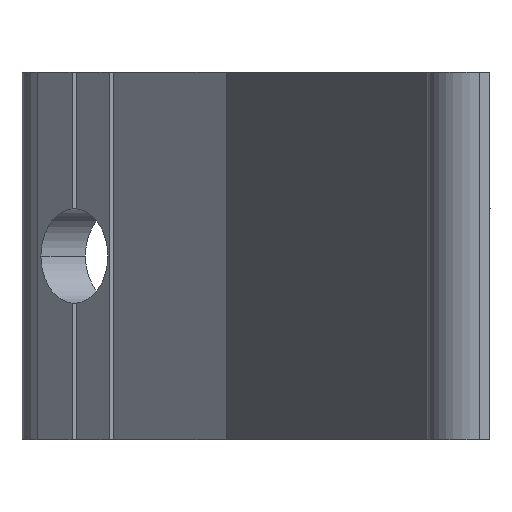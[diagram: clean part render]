
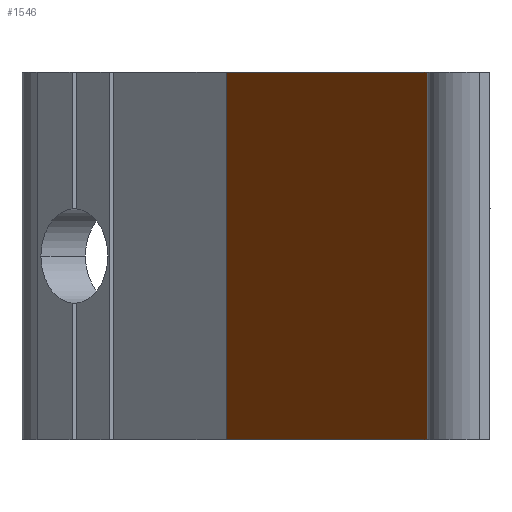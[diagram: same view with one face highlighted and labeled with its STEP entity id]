
A CAD part, left-side view. The second image highlights one B-rep face of the part: STEP entity #1546.
In plain terms, the highlighted planar face has unit normal (-0.383, 0.924, 0).
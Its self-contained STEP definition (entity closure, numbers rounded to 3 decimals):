
#22 = VECTOR ( 'NONE', #309, 1000. ) ;
#32 = DIRECTION ( 'NONE',  ( 0.924, 0.383, 0. ) ) ;
#59 = PLANE ( 'NONE',  #1454 ) ;
#83 = CARTESIAN_POINT ( 'NONE',  ( -6.448, 15.567, 17.5 ) ) ;
#103 = VERTEX_POINT ( 'NONE', #1101 ) ;
#109 = EDGE_CURVE ( 'NONE', #103, #1564, #1625, .T. ) ;
#123 = DIRECTION ( 'NONE',  ( -0.924, -0.383, 0. ) ) ;
#195 = DIRECTION ( 'NONE',  ( 0.383, -0.924, 0. ) ) ;
#197 = LINE ( 'NONE', #791, #947 ) ;
#207 = CARTESIAN_POINT ( 'NONE',  ( 16.649, 25.135, -17.5 ) ) ;
#265 = ORIENTED_EDGE ( 'NONE', *, *, #1080, .F. ) ;
#309 = DIRECTION ( 'NONE',  ( 0., 0., -1. ) ) ;
#390 = CARTESIAN_POINT ( 'NONE',  ( -6.448, 15.567, -17.5 ) ) ;
#391 = CARTESIAN_POINT ( 'NONE',  ( -29.546, 6., -17.5 ) ) ;
#561 = ORIENTED_EDGE ( 'NONE', *, *, #1038, .T. ) ;
#566 = LINE ( 'NONE', #1770, #1766 ) ;
#575 = ORIENTED_EDGE ( 'NONE', *, *, #1332, .T. ) ;
#790 = EDGE_LOOP ( 'NONE', ( #561, #1732, #265, #575 ) ) ;
#791 = CARTESIAN_POINT ( 'NONE',  ( 16.649, 25.135, 17.5 ) ) ;
#824 = VERTEX_POINT ( 'NONE', #207 ) ;
#838 = CARTESIAN_POINT ( 'NONE',  ( -29.546, 6., 17.5 ) ) ;
#844 = VERTEX_POINT ( 'NONE', #961 ) ;
#947 = VECTOR ( 'NONE', #957, 1000. ) ;
#957 = DIRECTION ( 'NONE',  ( 0., 0., -1. ) ) ;
#961 = CARTESIAN_POINT ( 'NONE',  ( 16.649, 25.135, 17.5 ) ) ;
#963 = DIRECTION ( 'NONE',  ( -0.924, -0.383, 0. ) ) ;
#1023 = VECTOR ( 'NONE', #123, 1000. ) ;
#1038 = EDGE_CURVE ( 'NONE', #824, #1564, #1855, .T. ) ;
#1080 = EDGE_CURVE ( 'NONE', #844, #103, #566, .T. ) ;
#1101 = CARTESIAN_POINT ( 'NONE',  ( -29.546, 6., 17.5 ) ) ;
#1332 = EDGE_CURVE ( 'NONE', #844, #824, #197, .T. ) ;
#1442 = FACE_OUTER_BOUND ( 'NONE', #790, .T. ) ;
#1454 = AXIS2_PLACEMENT_3D ( 'NONE', #83, #195, #32 ) ;
#1546 = ADVANCED_FACE ( 'NONE', ( #1442 ), #59, .F. ) ;
#1564 = VERTEX_POINT ( 'NONE', #391 ) ;
#1625 = LINE ( 'NONE', #838, #22 ) ;
#1732 = ORIENTED_EDGE ( 'NONE', *, *, #109, .F. ) ;
#1766 = VECTOR ( 'NONE', #963, 1000. ) ;
#1770 = CARTESIAN_POINT ( 'NONE',  ( -6.448, 15.567, 17.5 ) ) ;
#1855 = LINE ( 'NONE', #390, #1023 ) ;
